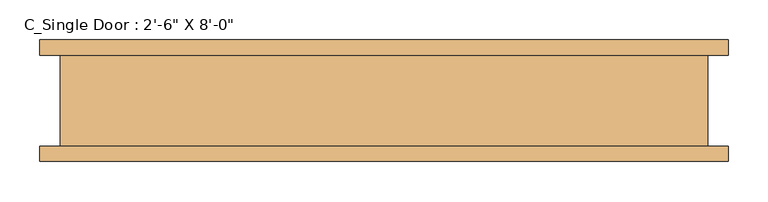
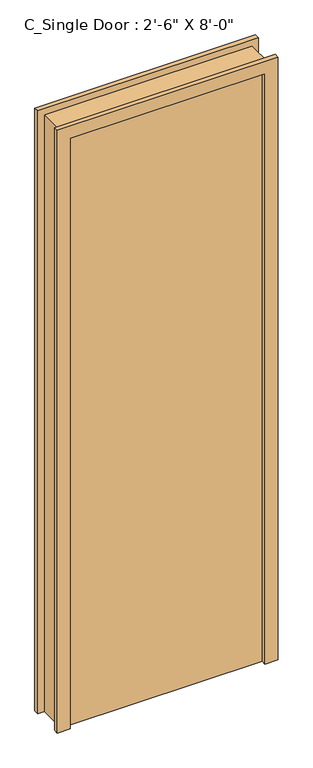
"""IFC4 building model written with IfcOpenShell, lengths in millimetres: door geometry."""

from ifc_helpers import new_model, si_unit, frame, origin, origin_with_axes, place, context, project, spatial, polyline, outline, extrude, source, transform, mapped, element, save


def door_1276751d(model_context):
    return source(origin(), model_context, "Body", "SweptSolid", [
        extrude(outline(polyline([(381.0, -57.15), (-381.0, -57.15), (-381.0, -6.35), (381.0, -6.35), (381.0, -57.15)])), origin_with_axes(), (0.0, 0.0, 1.0), 2438.4),
        extrude(outline(polyline([(2438.4, -381.0), (2438.4, 381.0), (0.0, 381.0), (0.0, 431.8), (2489.2, 431.8), (2489.2, -431.8), (0.0, -431.8), (0.0, -381.0), (2438.4, -381.0)])), frame((0.0, -76.2, 0.0), z_axis=(0.0, 1.0, 0.0), x_axis=(0.0, 0.0, 1.0)), (0.0, 0.0, 1.0), 19.05),
        extrude(outline(polyline([(2438.4, -381.0), (2438.4, 381.0), (0.0, 381.0), (0.0, 431.8), (2489.2, 431.8), (2489.2, -431.8), (0.0, -431.8), (0.0, -381.0), (2438.4, -381.0)])), frame((0.0, 57.15, 0.0), z_axis=(0.0, 1.0, 0.0), x_axis=(0.0, 0.0, 1.0)), (0.0, 0.0, 1.0), 19.05),
        extrude(outline(polyline([(0.0, -406.4), (0.0, -381.0), (2438.4, -381.0), (2438.4, 381.0), (0.0, 381.0), (0.0, 406.4), (2463.8, 406.4), (2463.8, -406.4), (0.0, -406.4)])), frame((0.0, -57.15, 0.0), z_axis=(0.0, 1.0, 0.0), x_axis=(0.0, 0.0, 1.0)), (0.0, 0.0, 1.0), 114.3),
    ])


if __name__ == "__main__":
    model = new_model("IFC4")
    model_context = context("Model", 3, world=origin())
    ifc_project = project(units=[si_unit("LENGTHUNIT", "METRE", prefix="MILLI")], contexts=[model_context])
    site = spatial("IfcSite", under=ifc_project)
    building = spatial("IfcBuilding", under=site)
    placement = place(None, origin())
    door_shape = door_1276751d(model_context)
    element("IfcDoor", 1, ObjectType="C_Single Door : 2'-6\" X 8'-0\"", at=placement, inside=building, context=model_context, shape_type="MappedRepresentation", body=[
        mapped(door_shape, transform((0.0, 0.0, 0.0), x_axis=(1.0, 0.0, 0.0), y_axis=(0.0, 1.0, 0.0), z_axis=(0.0, 0.0, 1.0))),
    ])
    save(model, "model.ifc")
